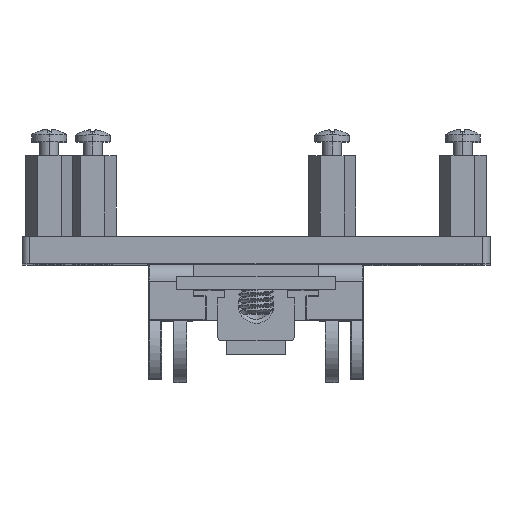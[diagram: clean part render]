
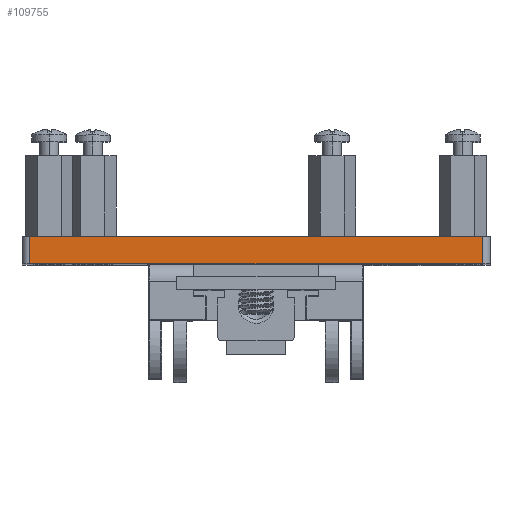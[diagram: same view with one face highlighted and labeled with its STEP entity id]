
A CAD part, top view. The second image highlights one B-rep face of the part: STEP entity #109755.
In plain terms, the highlighted planar face has unit normal (0, 0, 1).
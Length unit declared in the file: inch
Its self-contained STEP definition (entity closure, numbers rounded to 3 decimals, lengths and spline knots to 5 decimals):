
#3197 = EDGE_CURVE ( 'NONE', #117133, #17551, #114565, .T. ) ;
#12003 = LINE ( 'NONE', #142360, #105018 ) ;
#17551 = VERTEX_POINT ( 'NONE', #84519 ) ;
#20217 = VECTOR ( 'NONE', #38841, 39.37008 ) ;
#24583 = DIRECTION ( 'NONE',  ( 1., 0., 0. ) ) ;
#25234 = VERTEX_POINT ( 'NONE', #85264 ) ;
#28315 = EDGE_CURVE ( 'NONE', #17551, #66585, #12003, .T. ) ;
#29050 = DIRECTION ( 'NONE',  ( 0., 1., 0. ) ) ;
#37299 = PLANE ( 'NONE',  #85626 ) ;
#38456 = ORIENTED_EDGE ( 'NONE', *, *, #67026, .T. ) ;
#38841 = DIRECTION ( 'NONE',  ( 1., 0., 0. ) ) ;
#40690 = ORIENTED_EDGE ( 'NONE', *, *, #28315, .F. ) ;
#60532 = FACE_OUTER_BOUND ( 'NONE', #138697, .T. ) ;
#66553 = CARTESIAN_POINT ( 'NONE',  ( 5.37697, 0., -1.27323 ) ) ;
#66585 = VERTEX_POINT ( 'NONE', #66553 ) ;
#67026 = EDGE_CURVE ( 'NONE', #117133, #25234, #96126, .T. ) ;
#80210 = DIRECTION ( 'NONE',  ( 1., 0., 0. ) ) ;
#84519 = CARTESIAN_POINT ( 'NONE',  ( 3.29697, 0., -1.27323 ) ) ;
#85264 = CARTESIAN_POINT ( 'NONE',  ( 5.37697, -0.125, -1.27323 ) ) ;
#85626 = AXIS2_PLACEMENT_3D ( 'NONE', #118419, #142401, #24583 ) ;
#96126 = LINE ( 'NONE', #112966, #20217 ) ;
#102860 = CARTESIAN_POINT ( 'NONE',  ( 5.37697, -0.125, -1.27323 ) ) ;
#105018 = VECTOR ( 'NONE', #80210, 39.37008 ) ;
#106597 = LINE ( 'NONE', #102860, #129366 ) ;
#109755 = ADVANCED_FACE ( 'NONE', ( #60532 ), #37299, .T. ) ;
#112966 = CARTESIAN_POINT ( 'NONE',  ( 0., -0.125, -1.27323 ) ) ;
#112986 = DIRECTION ( 'NONE',  ( 0., 1., 0. ) ) ;
#114565 = LINE ( 'NONE', #124531, #127870 ) ;
#116495 = ORIENTED_EDGE ( 'NONE', *, *, #127195, .T. ) ;
#117133 = VERTEX_POINT ( 'NONE', #131300 ) ;
#118419 = CARTESIAN_POINT ( 'NONE',  ( 0., -0.125, -1.27323 ) ) ;
#124531 = CARTESIAN_POINT ( 'NONE',  ( 3.29697, -0.125, -1.27323 ) ) ;
#127195 = EDGE_CURVE ( 'NONE', #25234, #66585, #106597, .T. ) ;
#127870 = VECTOR ( 'NONE', #29050, 39.37008 ) ;
#129366 = VECTOR ( 'NONE', #112986, 39.37008 ) ;
#131300 = CARTESIAN_POINT ( 'NONE',  ( 3.29697, -0.125, -1.27323 ) ) ;
#138697 = EDGE_LOOP ( 'NONE', ( #40690, #143488, #38456, #116495 ) ) ;
#142360 = CARTESIAN_POINT ( 'NONE',  ( 0., 0., -1.27323 ) ) ;
#142401 = DIRECTION ( 'NONE',  ( 0., 0., 1. ) ) ;
#143488 = ORIENTED_EDGE ( 'NONE', *, *, #3197, .F. ) ;
